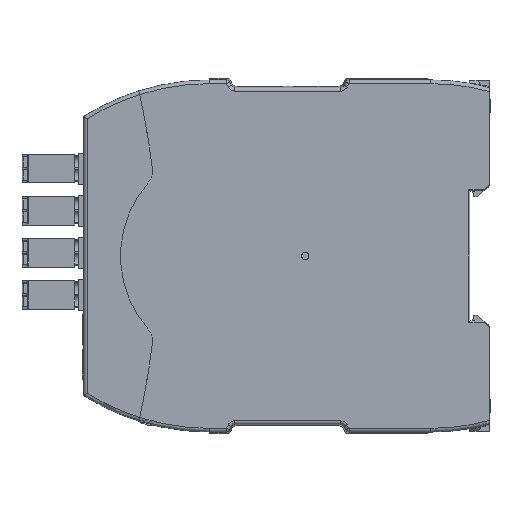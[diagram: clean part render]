
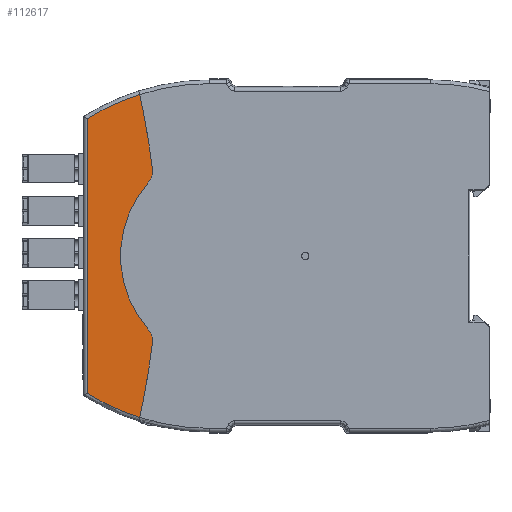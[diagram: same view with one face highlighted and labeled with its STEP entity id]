
A CAD part, left-side view. The second image highlights one B-rep face of the part: STEP entity #112617.
In plain terms, the highlighted planar face has unit normal (-1, 0, 0) as drawn and (0, 0, 1) by its records, which use the part's own axes.
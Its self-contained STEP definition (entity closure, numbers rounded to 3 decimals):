
#8877=FACE_OUTER_BOUND('',#15130,.T.);
#15130=EDGE_LOOP('',(#86612,#86613,#86614,#86615,#86616,#86617,#86618,#86619));
#21328=CIRCLE('',#120981,200.);
#21331=CIRCLE('',#120991,62.539);
#21332=CIRCLE('',#120993,5.);
#21333=CIRCLE('',#120994,30.);
#21334=CIRCLE('',#120995,5.);
#21335=CIRCLE('',#120996,200.);
#21336=CIRCLE('',#120997,62.539);
#26402=LINE('',#186881,#38361);
#38361=VECTOR('',#138904,74.369);
#50538=VERTEX_POINT('',#186815);
#50539=VERTEX_POINT('',#186817);
#50548=VERTEX_POINT('',#186854);
#50549=VERTEX_POINT('',#186871);
#50550=VERTEX_POINT('',#186873);
#50551=VERTEX_POINT('',#186875);
#50552=VERTEX_POINT('',#186877);
#50553=VERTEX_POINT('',#186879);
#63560=EDGE_CURVE('',#50538,#50539,#21328,.T.);
#63573=EDGE_CURVE('',#50548,#50539,#21331,.T.);
#63575=EDGE_CURVE('',#50538,#50549,#21332,.T.);
#63576=EDGE_CURVE('',#50549,#50550,#21333,.T.);
#63577=EDGE_CURVE('',#50550,#50551,#21334,.T.);
#63578=EDGE_CURVE('',#50552,#50551,#21335,.T.);
#63579=EDGE_CURVE('',#50552,#50553,#21336,.T.);
#63580=EDGE_CURVE('',#50553,#50548,#26402,.T.);
#86612=ORIENTED_EDGE('',*,*,#63575,.T.);
#86613=ORIENTED_EDGE('',*,*,#63576,.T.);
#86614=ORIENTED_EDGE('',*,*,#63577,.T.);
#86615=ORIENTED_EDGE('',*,*,#63578,.F.);
#86616=ORIENTED_EDGE('',*,*,#63579,.T.);
#86617=ORIENTED_EDGE('',*,*,#63580,.T.);
#86618=ORIENTED_EDGE('',*,*,#63573,.T.);
#86619=ORIENTED_EDGE('',*,*,#63560,.F.);
#107328=PLANE('',#120992);
#112617=ADVANCED_FACE('',(#8877),#107328,.T.);
#120981=AXIS2_PLACEMENT_3D('',#186818,#138864,#138865);
#120991=AXIS2_PLACEMENT_3D('',#186855,#138890,#138891);
#120992=AXIS2_PLACEMENT_3D('',#186870,#138892,#138893);
#120993=AXIS2_PLACEMENT_3D('',#186872,#138894,#138895);
#120994=AXIS2_PLACEMENT_3D('',#186874,#138896,#138897);
#120995=AXIS2_PLACEMENT_3D('',#186876,#138898,#138899);
#120996=AXIS2_PLACEMENT_3D('',#186878,#138900,#138901);
#120997=AXIS2_PLACEMENT_3D('',#186880,#138902,#138903);
#138864=DIRECTION('center_axis',(0.,0.,-1.));
#138865=DIRECTION('ref_axis',(-0.118,-0.993,0.));
#138890=DIRECTION('center_axis',(0.,0.,1.));
#138891=DIRECTION('ref_axis',(-0.849,0.528,0.));
#138892=DIRECTION('center_axis',(0.,0.,1.));
#138893=DIRECTION('ref_axis',(1.,0.,0.));
#138894=DIRECTION('center_axis',(0.,0.,1.));
#138895=DIRECTION('ref_axis',(-0.118,-0.993,0.));
#138896=DIRECTION('center_axis',(0.,0.,-1.));
#138897=DIRECTION('ref_axis',(-0.658,0.753,0.));
#138898=DIRECTION('center_axis',(0.,0.,1.));
#138899=DIRECTION('ref_axis',(-0.658,-0.753,0.));
#138900=DIRECTION('center_axis',(0.,0.,-1.));
#138901=DIRECTION('ref_axis',(0.218,-0.976,0.));
#138902=DIRECTION('center_axis',(0.,0.,1.));
#138903=DIRECTION('ref_axis',(0.954,0.301,0.));
#138904=DIRECTION('',(-1.,0.,0.));
#186815=CARTESIAN_POINT('',(-23.611,91.399,11.25));
#186817=CARTESIAN_POINT('',(-43.697,94.832,11.25));
#186818=CARTESIAN_POINT('Origin',(0.,290.,11.25));
#186854=CARTESIAN_POINT('',(-37.185,109.,11.25));
#186855=CARTESIAN_POINT('Origin',(15.939,76.,11.25));
#186870=CARTESIAN_POINT('Origin',(0.,0.,11.25));
#186871=CARTESIAN_POINT('',(-19.732,92.597,11.25));
#186872=CARTESIAN_POINT('Origin',(-23.021,96.364,11.25));
#186873=CARTESIAN_POINT('',(19.732,92.597,11.25));
#186874=CARTESIAN_POINT('Origin',(0.,70.,11.25));
#186875=CARTESIAN_POINT('',(23.611,91.399,11.25));
#186876=CARTESIAN_POINT('Origin',(23.021,96.364,11.25));
#186877=CARTESIAN_POINT('',(43.697,94.832,11.25));
#186878=CARTESIAN_POINT('Origin',(0.,290.,11.25));
#186879=CARTESIAN_POINT('',(37.185,109.,11.25));
#186880=CARTESIAN_POINT('Origin',(-15.939,76.,11.25));
#186881=CARTESIAN_POINT('',(37.185,109.,11.25));
